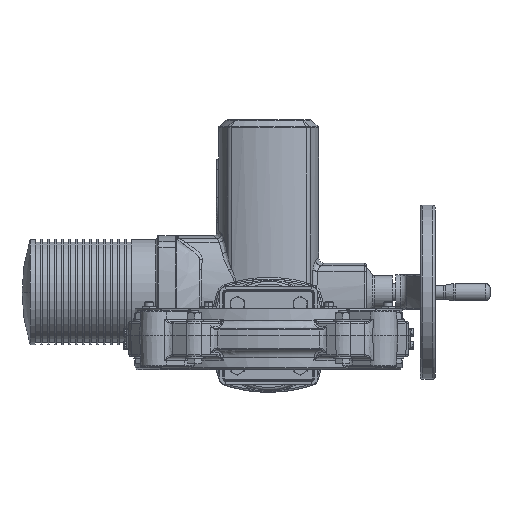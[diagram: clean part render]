
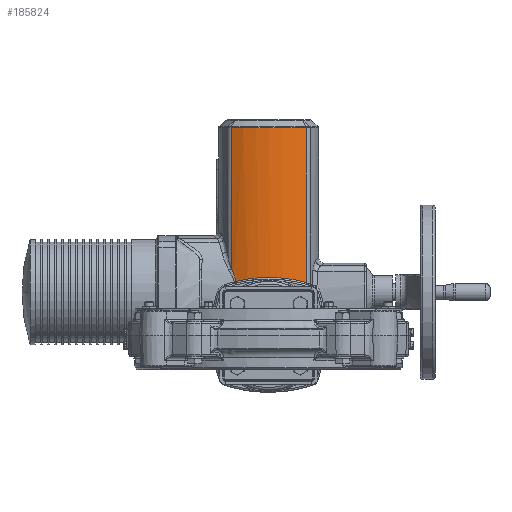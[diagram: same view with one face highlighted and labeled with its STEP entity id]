
A CAD part, front view. The second image highlights one B-rep face of the part: STEP entity #185824.
In plain terms, the highlighted cylindrical face has radius 100 mm (diameter 200 mm), a partial arc.
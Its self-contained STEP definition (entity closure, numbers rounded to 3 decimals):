
#62 = CARTESIAN_POINT ( 'NONE',  ( 30.423, 682.179, 63.785 ) ) ;
#7883 = LINE ( 'NONE', #132629, #42049 ) ;
#8705 = CARTESIAN_POINT ( 'NONE',  ( 43.041, 687.237, 247.75 ) ) ;
#8926 = CARTESIAN_POINT ( 'NONE',  ( -38.812, 685.333, 67.167 ) ) ;
#9822 = EDGE_CURVE ( 'NONE', #187300, #86868, #83559, .T. ) ;
#14149 = CARTESIAN_POINT ( 'NONE',  ( -3.699, 677.507, 66.745 ) ) ;
#14415 = ORIENTED_EDGE ( 'NONE', *, *, #157131, .T. ) ;
#14763 = CARTESIAN_POINT ( 'NONE',  ( 39.975, 685.775, 61.568 ) ) ;
#22878 = AXIS2_PLACEMENT_3D ( 'NONE', #124052, #167489, #36939 ) ;
#23528 = CARTESIAN_POINT ( 'NONE',  ( -37.247, 684.696, 62.232 ) ) ;
#28174 = CARTESIAN_POINT ( 'NONE',  ( -34.072, 683.421, 63.013 ) ) ;
#28796 = CARTESIAN_POINT ( 'NONE',  ( 6.69, 677.664, 66.645 ) ) ;
#36939 = DIRECTION ( 'NONE',  ( -1., 0., 0. ) ) ;
#37892 = ORIENTED_EDGE ( 'NONE', *, *, #92496, .T. ) ;
#42049 = VECTOR ( 'NONE', #147316, 1000. ) ;
#42872 = CARTESIAN_POINT ( 'NONE',  ( -37.247, 684.696, 62.232 ) ) ;
#43493 = CARTESIAN_POINT ( 'NONE',  ( 15.279, 678.659, 66.008 ) ) ;
#49484 = ORIENTED_EDGE ( 'NONE', *, *, #110614, .T. ) ;
#53916 = DIRECTION ( 'NONE',  ( 0., 0., -1. ) ) ;
#57475 = CARTESIAN_POINT ( 'NONE',  ( -20.937, 679.656, 65.374 ) ) ;
#58100 = CARTESIAN_POINT ( 'NONE',  ( 19.552, 679.426, 65.52 ) ) ;
#70661 = DIRECTION ( 'NONE',  ( 0., 0., -1. ) ) ;
#72119 = CARTESIAN_POINT ( 'NONE',  ( -14.131, 678.488, 66.117 ) ) ;
#72731 = CARTESIAN_POINT ( 'NONE',  ( 22.103, 679.97, 65.176 ) ) ;
#80822 = CARTESIAN_POINT ( 'NONE',  ( -43.041, 687.237, 76.501 ) ) ;
#83559 = B_SPLINE_CURVE_WITH_KNOTS ( 'NONE', 3,
 ( #42872, #28174, #115329, #144672, #57475, #159355, #72119, #173968, #86710, #188598, #101280, #14149, #115929, #28796, #130607, #43493, #145288, #58100, #160004, #72731, #174615, #87333, #62, #101920, #14763, #116566 ),
 .UNSPECIFIED., .F., .F.,
 ( 4, 2, 2, 2, 2, 2, 2, 2, 2, 2, 2, 2, 4 ),
 ( 0., 0.01, 0.021, 0.026, 0.029, 0.031, 0.042, 0.052, 0.057, 0.06, 0.062, 0.073, 0.083 ),
 .UNSPECIFIED. ) ;
#86710 = CARTESIAN_POINT ( 'NONE',  ( -10.673, 678.067, 66.386 ) ) ;
#86868 = VERTEX_POINT ( 'NONE', #131759 ) ;
#87333 = CARTESIAN_POINT ( 'NONE',  ( 27.143, 681.192, 64.404 ) ) ;
#90139 = CYLINDRICAL_SURFACE ( 'NONE', #22878, 100. ) ;
#90906 = LINE ( 'NONE', #8705, #129608 ) ;
#92496 = EDGE_CURVE ( 'NONE', #149356, #187300, #139782, .T. ) ;
#96026 = CARTESIAN_POINT ( 'NONE',  ( -40.772, 686.183, 71.911 ) ) ;
#101280 = CARTESIAN_POINT ( 'NONE',  ( -8.057, 677.821, 66.544 ) ) ;
#101920 = CARTESIAN_POINT ( 'NONE',  ( 36.839, 684.47, 62.368 ) ) ;
#103467 = CARTESIAN_POINT ( 'NONE',  ( -37.247, 684.696, 62.232 ) ) ;
#110614 = EDGE_CURVE ( 'NONE', #187948, #160500, #127830, .T. ) ;
#110690 = CARTESIAN_POINT ( 'NONE',  ( -37.946, 684.976, 64.739 ) ) ;
#115329 = CARTESIAN_POINT ( 'NONE',  ( -30.843, 682.314, 63.702 ) ) ;
#115929 = CARTESIAN_POINT ( 'NONE',  ( -0.227, 677.44, 66.788 ) ) ;
#116566 = CARTESIAN_POINT ( 'NONE',  ( 43.041, 687.237, 60.688 ) ) ;
#124052 = CARTESIAN_POINT ( 'NONE',  ( 0., 777.5, 247.75 ) ) ;
#127830 = CIRCLE ( 'NONE', #157723, 100. ) ;
#129201 = ORIENTED_EDGE ( 'NONE', *, *, #137706, .F. ) ;
#129608 = VECTOR ( 'NONE', #53916, 1000. ) ;
#130607 = CARTESIAN_POINT ( 'NONE',  ( 10.134, 677.955, 66.458 ) ) ;
#131243 = CARTESIAN_POINT ( 'NONE',  ( -43.041, 687.237, 238.426 ) ) ;
#131759 = CARTESIAN_POINT ( 'NONE',  ( 43.041, 687.237, 60.688 ) ) ;
#132629 = CARTESIAN_POINT ( 'NONE',  ( -43.041, 687.237, 247.75 ) ) ;
#137706 = EDGE_CURVE ( 'NONE', #187948, #86868, #90906, .T. ) ;
#139782 = B_SPLINE_CURVE_WITH_KNOTS ( 'NONE', 3,
 ( #80822, #168748, #96026, #8926, #110690, #23528 ),
 .UNSPECIFIED., .F., .F.,
 ( 4, 2, 4 ),
 ( 0., 0.008, 0.016 ),
 .UNSPECIFIED. ) ;
#142605 = FACE_OUTER_BOUND ( 'NONE', #142922, .T. ) ;
#142922 = EDGE_LOOP ( 'NONE', ( #37892, #168227, #129201, #49484, #14415 ) ) ;
#144672 = CARTESIAN_POINT ( 'NONE',  ( -24.276, 680.431, 64.883 ) ) ;
#145288 = CARTESIAN_POINT ( 'NONE',  ( 16.99, 678.939, 65.83 ) ) ;
#147316 = DIRECTION ( 'NONE',  ( 0., 0., -1. ) ) ;
#149356 = VERTEX_POINT ( 'NONE', #153097 ) ;
#153097 = CARTESIAN_POINT ( 'NONE',  ( -43.041, 687.237, 76.501 ) ) ;
#157131 = EDGE_CURVE ( 'NONE', #160500, #149356, #7883, .T. ) ;
#157723 = AXIS2_PLACEMENT_3D ( 'NONE', #157908, #70661, #172557 ) ;
#157908 = CARTESIAN_POINT ( 'NONE',  ( 0., 777.5, 238.426 ) ) ;
#159355 = CARTESIAN_POINT ( 'NONE',  ( -15.843, 678.748, 65.951 ) ) ;
#160004 = CARTESIAN_POINT ( 'NONE',  ( 20.406, 679.6, 65.41 ) ) ;
#160500 = VERTEX_POINT ( 'NONE', #131243 ) ;
#167489 = DIRECTION ( 'NONE',  ( 0., 0., -1. ) ) ;
#168227 = ORIENTED_EDGE ( 'NONE', *, *, #9822, .T. ) ;
#168748 = CARTESIAN_POINT ( 'NONE',  ( -41.868, 686.677, 74.227 ) ) ;
#172557 = DIRECTION ( 'NONE',  ( 1., 0., 0. ) ) ;
#173968 = CARTESIAN_POINT ( 'NONE',  ( -11.541, 678.164, 66.324 ) ) ;
#174615 = CARTESIAN_POINT ( 'NONE',  ( 22.947, 680.165, 65.053 ) ) ;
#184810 = CARTESIAN_POINT ( 'NONE',  ( 43.041, 687.237, 238.426 ) ) ;
#185824 = ADVANCED_FACE ( 'NONE', ( #142605 ), #90139, .T. ) ;
#187300 = VERTEX_POINT ( 'NONE', #103467 ) ;
#187948 = VERTEX_POINT ( 'NONE', #184810 ) ;
#188598 = CARTESIAN_POINT ( 'NONE',  ( -8.931, 677.896, 66.496 ) ) ;
